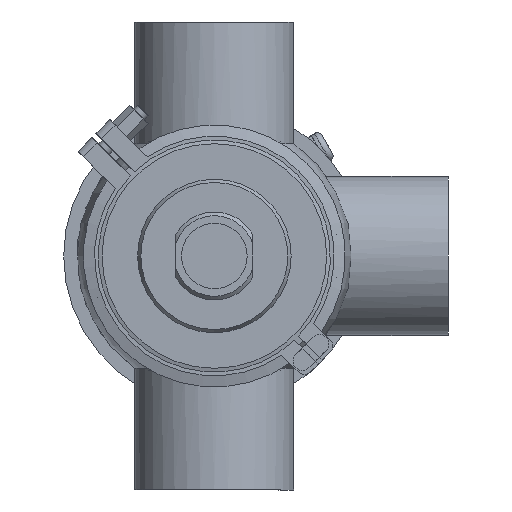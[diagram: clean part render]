
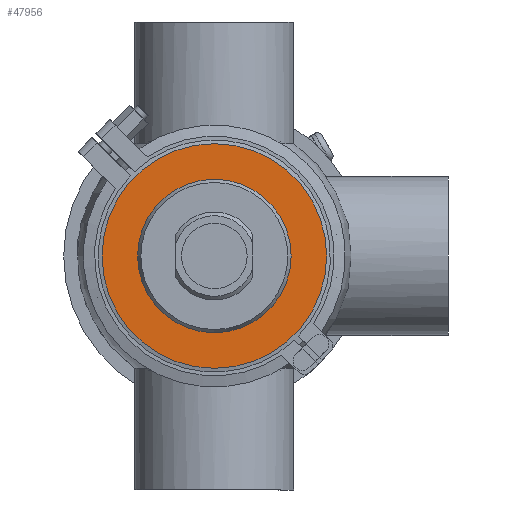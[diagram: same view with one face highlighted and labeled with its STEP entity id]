
A CAD part, front view. The second image highlights one B-rep face of the part: STEP entity #47956.
In plain terms, the highlighted planar face has unit normal (0, -1, 0).
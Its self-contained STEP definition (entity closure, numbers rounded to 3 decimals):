
#267 = DIRECTION ( 'NONE',  ( 0., 1., 0. ) ) ;
#5797 = CIRCLE ( 'NONE', #54161, 41. ) ;
#10227 = DIRECTION ( 'NONE',  ( 0., 0., 1. ) ) ;
#11172 = CARTESIAN_POINT ( 'NONE',  ( 0., -13., 0. ) ) ;
#12289 = DIRECTION ( 'NONE',  ( 0., -1., 0. ) ) ;
#16836 = EDGE_CURVE ( 'NONE', #49851, #49851, #5797, .T. ) ;
#19588 = CARTESIAN_POINT ( 'NONE',  ( 0., -13., 41. ) ) ;
#21596 = FACE_BOUND ( 'NONE', #53326, .T. ) ;
#21883 = ORIENTED_EDGE ( 'NONE', *, *, #16836, .T. ) ;
#22229 = PLANE ( 'NONE',  #55867 ) ;
#25725 = VERTEX_POINT ( 'NONE', #35414 ) ;
#28113 = ORIENTED_EDGE ( 'NONE', *, *, #56499, .F. ) ;
#35414 = CARTESIAN_POINT ( 'NONE',  ( 0., -13., 60. ) ) ;
#36793 = FACE_OUTER_BOUND ( 'NONE', #55971, .T. ) ;
#40140 = DIRECTION ( 'NONE',  ( 0., 1., 0. ) ) ;
#40460 = DIRECTION ( 'NONE',  ( 0., 0., 1. ) ) ;
#43996 = AXIS2_PLACEMENT_3D ( 'NONE', #44986, #267, #10227 ) ;
#44986 = CARTESIAN_POINT ( 'NONE',  ( 0., -13., 0. ) ) ;
#45777 = CARTESIAN_POINT ( 'NONE',  ( -60., -13., 0. ) ) ;
#47956 = ADVANCED_FACE ( 'NONE', ( #21596, #36793 ), #22229, .T. ) ;
#49851 = VERTEX_POINT ( 'NONE', #19588 ) ;
#53326 = EDGE_LOOP ( 'NONE', ( #21883 ) ) ;
#54161 = AXIS2_PLACEMENT_3D ( 'NONE', #11172, #40140, #40460 ) ;
#55867 = AXIS2_PLACEMENT_3D ( 'NONE', #45777, #12289, #56709 ) ;
#55971 = EDGE_LOOP ( 'NONE', ( #28113 ) ) ;
#56499 = EDGE_CURVE ( 'NONE', #25725, #25725, #57391, .T. ) ;
#56709 = DIRECTION ( 'NONE',  ( 0., 0., -1. ) ) ;
#57391 = CIRCLE ( 'NONE', #43996, 60. ) ;
